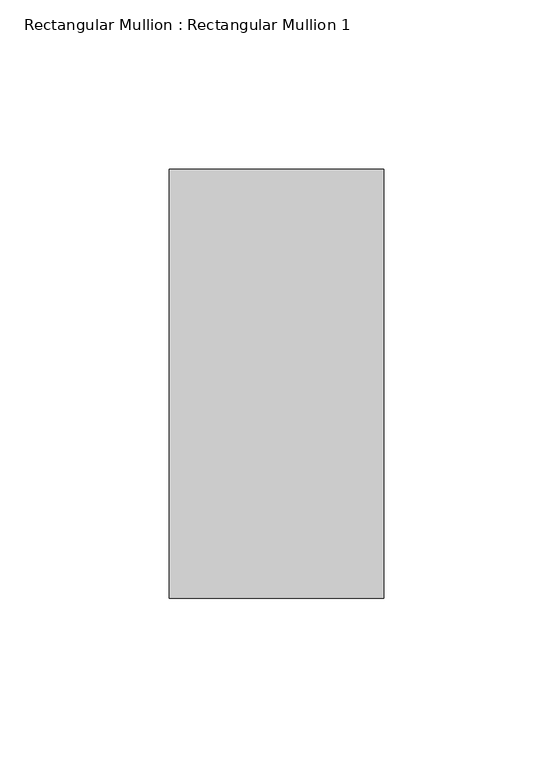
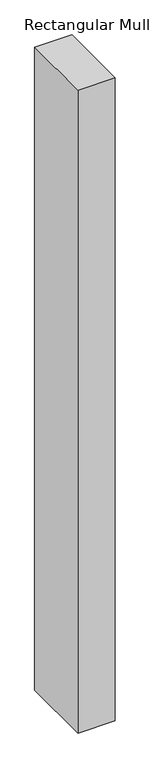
"""IFC4 building model written with IfcOpenShell, lengths in millimetres: member geometry, Rectangular Mullion : Rectangular Mullion 1."""

from ifc_helpers import new_model, si_unit, frame, origin, place, context, project, spatial, polyline, outline, extrude, source, transform, mapped, element, save


def rectangular_mullion_rectangular_mullion_1_7cbf0b94(model_context):
    return source(origin(), model_context, "Body", "SweptSolid", [
        extrude(outline(polyline([(31.75, 63.5), (31.75, -63.5), (-31.75, -63.5), (-31.75, 63.5), (31.75, 63.5)])), frame((0.0, 0.0, -1155.7000003), z_axis=(0.0, 0.0, 1.0), x_axis=(1.0, 0.0, 0.0)), (0.0, 0.0, 1.0), 1155.7000003),
    ])


if __name__ == "__main__":
    model = new_model("IFC4")
    model_context = context("Model", 3, world=origin())
    ifc_project = project(units=[si_unit("LENGTHUNIT", "METRE", prefix="MILLI")], contexts=[model_context])
    site = spatial("IfcSite", under=ifc_project)
    building = spatial("IfcBuilding", under=site)
    placement = place(None, origin())
    rectangular_mullion_rectangular_mullion_1_shape = rectangular_mullion_rectangular_mullion_1_7cbf0b94(model_context)
    element("IfcMember", 1, ObjectType="Rectangular Mullion : Rectangular Mullion 1", at=placement, inside=building, context=model_context, shape_type="MappedRepresentation", body=[
        mapped(rectangular_mullion_rectangular_mullion_1_shape, transform((0.0, 0.0, 0.0), x_axis=(1.0, 0.0, 0.0), y_axis=(0.0, 1.0, 0.0), z_axis=(0.0, 0.0, 1.0))),
    ])
    save(model, "model.ifc")
